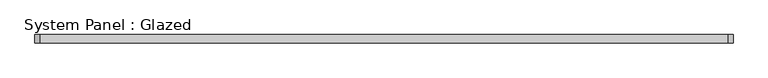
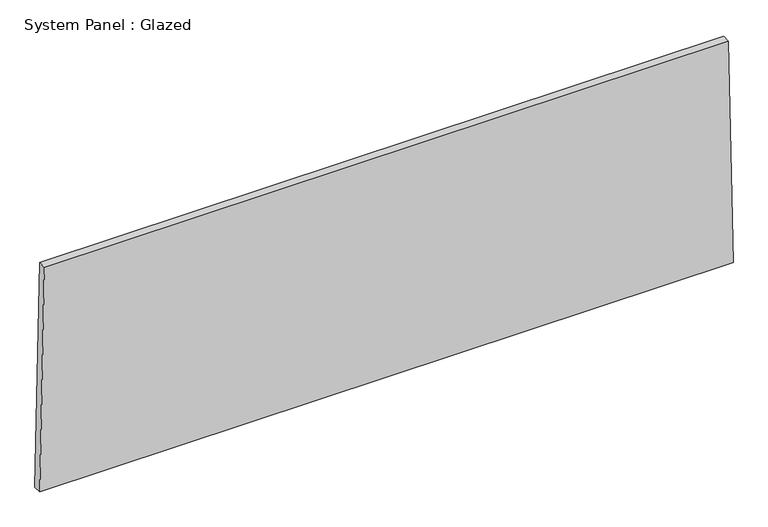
"""IFC4 building model written with IfcOpenShell, lengths in millimetres: plate geometry, System Panel : Glazed."""

from ifc_helpers import new_model, si_unit, frame, origin, place, context, project, spatial, polyline, outline, extrude, source, transform, mapped, element, save


def system_panel_glazed_dfb81899(model_context):
    return source(origin(), model_context, "Body", "SweptSolid", [
        extrude(outline(polyline([(0.0, -1064.4292846), (0.0, 1064.4292846), (723.7529951, 1050.2106901), (723.7529951, -1050.2106901), (0.0, -1064.4292846)])), frame((0.0, -44.45, 0.0), z_axis=(0.0, 1.0, 0.0), x_axis=(0.0, 0.0, 1.0)), (0.0, 0.0, 1.0), 25.4),
    ])


if __name__ == "__main__":
    model = new_model("IFC4")
    model_context = context("Model", 3, world=origin())
    ifc_project = project(units=[si_unit("LENGTHUNIT", "METRE", prefix="MILLI")], contexts=[model_context])
    site = spatial("IfcSite", under=ifc_project)
    building = spatial("IfcBuilding", under=site)
    placement = place(None, origin())
    system_panel_glazed_shape = system_panel_glazed_dfb81899(model_context)
    element("IfcPlate", 1, ObjectType="System Panel : Glazed", at=placement, inside=building, context=model_context, shape_type="MappedRepresentation", body=[
        mapped(system_panel_glazed_shape, transform((0.0, 0.0, 0.0), x_axis=(1.0, 0.0, 0.0), y_axis=(0.0, 1.0, 0.0), z_axis=(0.0, 0.0, 1.0))),
    ])
    save(model, "model.ifc")
